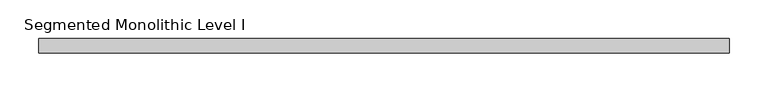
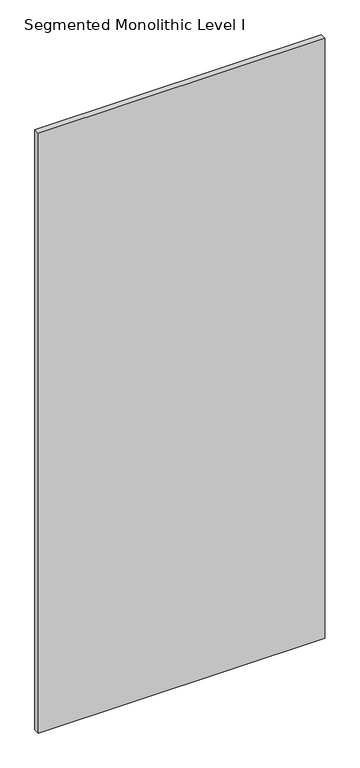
"""IFC4 building model written with IfcOpenShell, lengths in millimetres: proxy geometry, Panel-Fascia-Teknion-Altos : Segmented Monolithic Level I."""

from ifc_helpers import new_model, si_unit, frame, origin, place, context, project, spatial, polyline, outline, extrude, source, transform, mapped, element, save


def segmented_monolithic_level_i_1ec0774b(model_context):
    return source(origin(), model_context, "Body", "SweptSolid", [
        extrude(outline(polyline([(447.0356344, -9.525), (-447.0356344, -9.525), (-447.0356344, 9.525), (447.0356344, 9.525), (447.0356344, -9.525)])), frame((0.0, 0.0, 3.175), z_axis=(0.0, 0.0, 1.0), x_axis=(1.0, 0.0, 0.0)), (0.0, 0.0, 1.0), 1979.168),
    ])


if __name__ == "__main__":
    model = new_model("IFC4")
    model_context = context("Model", 3, world=origin())
    ifc_project = project(units=[si_unit("LENGTHUNIT", "METRE", prefix="MILLI")], contexts=[model_context])
    site = spatial("IfcSite", under=ifc_project)
    building = spatial("IfcBuilding", under=site)
    placement = place(None, origin())
    segmented_monolithic_level_i_shape = segmented_monolithic_level_i_1ec0774b(model_context)
    element("IfcBuildingElementProxy", 1, Name="Panel-Fascia-Teknion-Altos : Segmented Monolithic Level I", ObjectType="Panel-Fascia-Teknion-Altos : Segmented Monolithic Level I", at=placement, inside=building, context=model_context, shape_type="MappedRepresentation", body=[
        mapped(segmented_monolithic_level_i_shape, transform((0.0, 0.0, 0.0), x_axis=(1.0, 0.0, 0.0), y_axis=(0.0, 1.0, 0.0), z_axis=(0.0, 0.0, 1.0))),
    ])
    save(model, "model.ifc")
